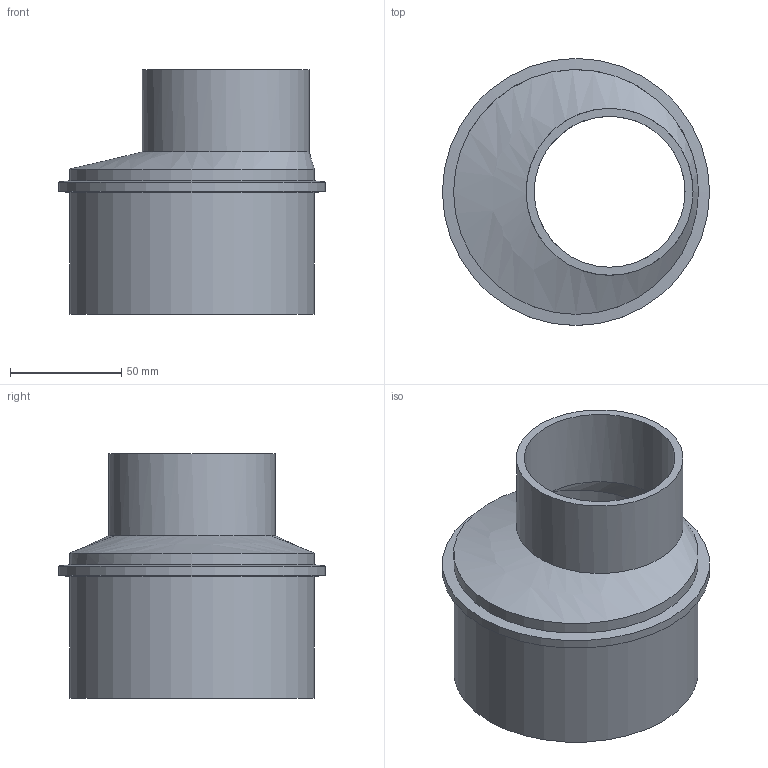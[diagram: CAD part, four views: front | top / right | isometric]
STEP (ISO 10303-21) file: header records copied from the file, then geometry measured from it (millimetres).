
FILE_DESCRIPTION(/* description */ (''),/* implementation_level */ '2;1');
FILE_NAME(/* name */ 'Z:\Geberit\Export\NewStep\Reduktion_Ipart\stp\310070.stp',/* time_stamp */ '2014-04-03T18:14:04+02:00',/* author */ ('nelson'),/* organization */ (''),/* preprocessor_version */ 'ST-DEVELOPER v15.2',/* originating_system */ 'Autodesk Inventor 2014',/* authorisation */ '');
FILE_SCHEMA (('AUTOMOTIVE_DESIGN { 1 0 10303 214 3 1 1 }'));
Length unit declared in the file: millimetre
Products named in the file (1): 310070
Bounding box: 120 x 120 x 110 mm (x, y, z)
Volume: 176711 mm3; surface area: 75896.9 mm2
Topology: 1 solids, 1 shells, 12 faces, 28 edges, 18 vertices
Faces by surface type: cylinder 6, cone 2, bspline 2, plane 2
Full cylindrical faces by diameter (mm): 67.8 x1, 75 x1, 98 x1, 110 x2, 120 x1
Entity records: 355 total; most frequent: CARTESIAN_POINT 83, DIRECTION 54, ORIENTED_EDGE 36, AXIS2_PLACEMENT_3D 27, EDGE_LOOP 22, EDGE_CURVE 18, CIRCLE 16, VERTEX_POINT 16
